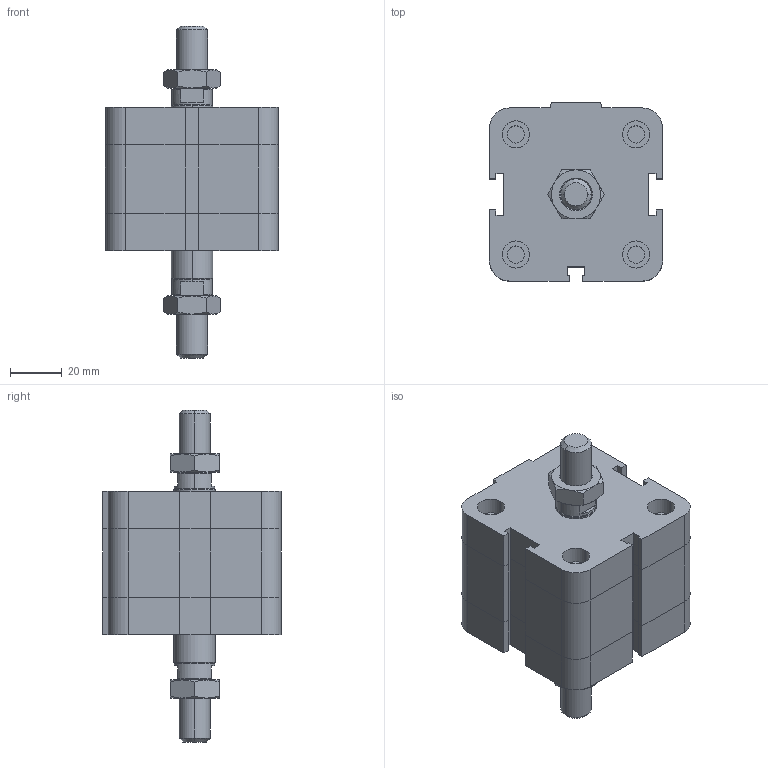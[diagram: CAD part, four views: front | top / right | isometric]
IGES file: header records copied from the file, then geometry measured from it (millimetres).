
Global section: file name: No Iges File Name specified; native system: Autodesk Inventor 2009; preprocessor: AutoDesk Inventor Iges Exporter R2009; author: maffial1; date: 20090420.200718; units: millimetre
Bounding box: 67 x 69 x 128.5 mm (x, y, z)
Volume: 241762.8 mm3; surface area: 40839.7 mm2
Topology: 4 solids, 4 shells, 260 faces, 574 edges, 342 vertices
Faces by surface type: plane 129, bspline 51, cone 38, cylinder 22, revolution 20
